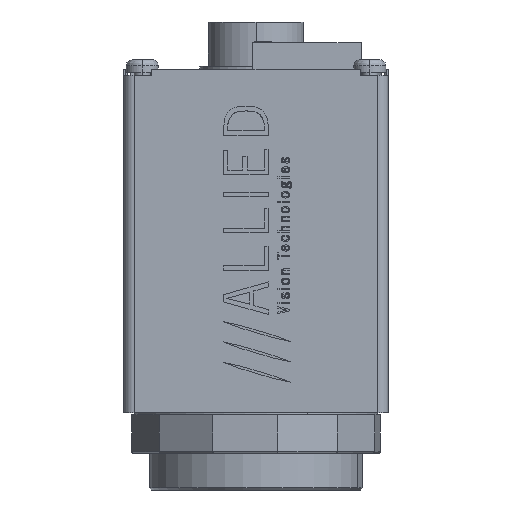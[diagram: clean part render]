
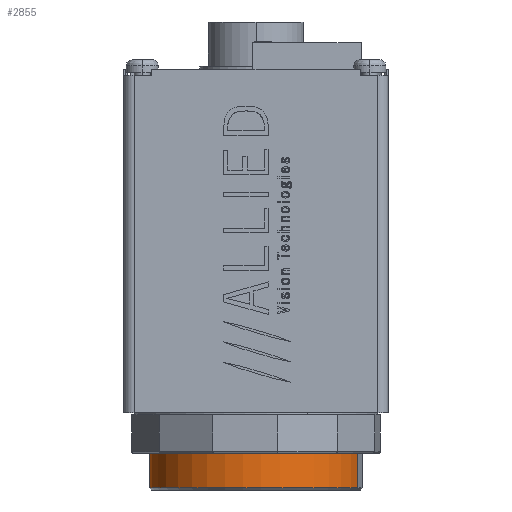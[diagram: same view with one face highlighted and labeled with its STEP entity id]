
A CAD part, left-side view. The second image highlights one B-rep face of the part: STEP entity #2855.
In plain terms, the highlighted cylindrical face has radius 13.335 mm (diameter 26.67 mm), a partial arc.
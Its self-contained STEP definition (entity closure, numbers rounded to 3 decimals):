
#2855 = ADVANCED_FACE ( 'NONE', ( #156329 ), #30748, .T. ) ;
#11681 = DIRECTION ( 'NONE',  ( 0., 0., -1. ) ) ;
#13677 = AXIS2_PLACEMENT_3D ( 'NONE', #172844, #57811, #60911 ) ;
#15453 = DIRECTION ( 'NONE',  ( 0., 0., 1. ) ) ;
#22019 = VERTEX_POINT ( 'NONE', #166266 ) ;
#22781 = CIRCLE ( 'NONE', #133702, 13.335 ) ;
#30748 = CYLINDRICAL_SURFACE ( 'NONE', #13677, 13.335 ) ;
#30896 = VECTOR ( 'NONE', #125366, 1000. ) ;
#32533 = ORIENTED_EDGE ( 'NONE', *, *, #100273, .T. ) ;
#34870 = ORIENTED_EDGE ( 'NONE', *, *, #85013, .F. ) ;
#51226 = AXIS2_PLACEMENT_3D ( 'NONE', #99809, #15453, #113937 ) ;
#52808 = CARTESIAN_POINT ( 'NONE',  ( -13.335, 0., 7.214 ) ) ;
#57811 = DIRECTION ( 'NONE',  ( 0., 0., 1. ) ) ;
#58673 = ORIENTED_EDGE ( 'NONE', *, *, #103170, .T. ) ;
#60911 = DIRECTION ( 'NONE',  ( 1., 0., 0. ) ) ;
#61109 = ORIENTED_EDGE ( 'NONE', *, *, #156127, .T. ) ;
#70605 = LINE ( 'NONE', #52808, #145481 ) ;
#79198 = CIRCLE ( 'NONE', #51226, 13.335 ) ;
#85013 = EDGE_CURVE ( 'NONE', #147480, #22019, #176259, .T. ) ;
#88772 = CARTESIAN_POINT ( 'NONE',  ( -13.335, 0., 7.214 ) ) ;
#96032 = CARTESIAN_POINT ( 'NONE',  ( 0., 0., 13.386 ) ) ;
#99809 = CARTESIAN_POINT ( 'NONE',  ( 0., 0., 7.214 ) ) ;
#100273 = EDGE_CURVE ( 'NONE', #111137, #117118, #70605, .T. ) ;
#103170 = EDGE_CURVE ( 'NONE', #147480, #111137, #79198, .T. ) ;
#110174 = DIRECTION ( 'NONE',  ( 1., 0., 0. ) ) ;
#111137 = VERTEX_POINT ( 'NONE', #88772 ) ;
#113937 = DIRECTION ( 'NONE',  ( 1., 0., 0. ) ) ;
#117118 = VERTEX_POINT ( 'NONE', #139652 ) ;
#125366 = DIRECTION ( 'NONE',  ( 0., 0., 1. ) ) ;
#133702 = AXIS2_PLACEMENT_3D ( 'NONE', #96032, #11681, #110174 ) ;
#139652 = CARTESIAN_POINT ( 'NONE',  ( -13.335, 0., 13.386 ) ) ;
#145481 = VECTOR ( 'NONE', #151286, 1000. ) ;
#147480 = VERTEX_POINT ( 'NONE', #152903 ) ;
#151286 = DIRECTION ( 'NONE',  ( 0., 0., 1. ) ) ;
#152903 = CARTESIAN_POINT ( 'NONE',  ( 13.335, 0., 7.214 ) ) ;
#155462 = CARTESIAN_POINT ( 'NONE',  ( 13.335, 0., 7.214 ) ) ;
#156127 = EDGE_CURVE ( 'NONE', #117118, #22019, #22781, .T. ) ;
#156329 = FACE_OUTER_BOUND ( 'NONE', #182692, .T. ) ;
#166266 = CARTESIAN_POINT ( 'NONE',  ( 13.335, 0., 13.386 ) ) ;
#172844 = CARTESIAN_POINT ( 'NONE',  ( 0., 0., 7.214 ) ) ;
#176259 = LINE ( 'NONE', #155462, #30896 ) ;
#182692 = EDGE_LOOP ( 'NONE', ( #58673, #32533, #61109, #34870 ) ) ;
